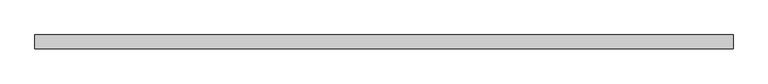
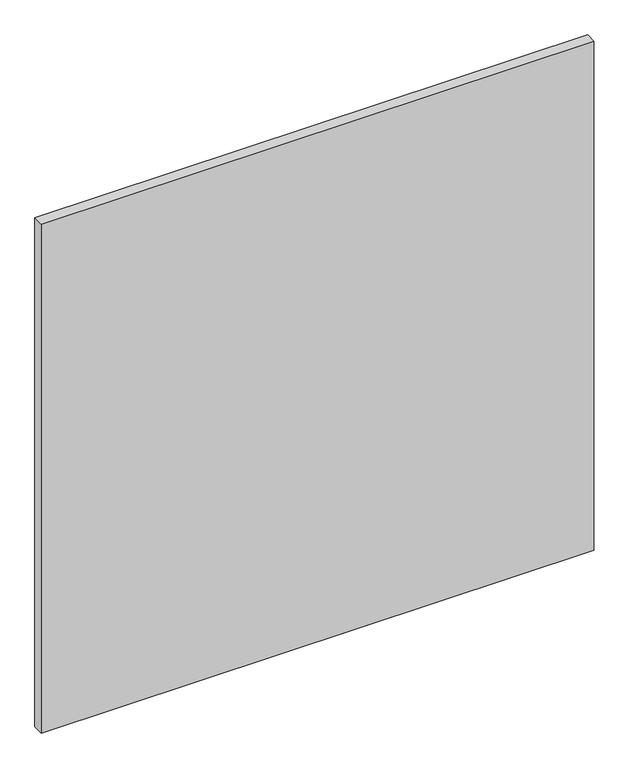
"""IFC4 building model written with IfcOpenShell, lengths in millimetres: proxy geometry, BRASAO : BRASAO."""

from ifc_helpers import new_model, si_unit, frame, origin, place, context, project, spatial, polyline, outline, extrude, source, transform, mapped, element, save


def generic_models_939d28b0(model_context):
    return source(origin(), model_context, "Body", "SweptSolid", [
        extrude(outline(polyline([(2819.2338956, 18393.4769048), (765.1805369, 18393.4769048), (765.1805369, 18433.4769048), (2819.2338956, 18433.4769048), (2819.2338956, 18393.4769048)])), frame((0.0, 0.0, 7170.0), z_axis=(0.0, 0.0, 1.0), x_axis=(1.0, 0.0, 0.0)), (0.0, 0.0, 1.0), 2000.0),
    ])


if __name__ == "__main__":
    model = new_model("IFC4")
    model_context = context("Model", 3, world=origin())
    ifc_project = project(units=[si_unit("LENGTHUNIT", "METRE", prefix="MILLI")], contexts=[model_context])
    site = spatial("IfcSite", under=ifc_project)
    building = spatial("IfcBuilding", under=site)
    placement = place(None, origin())
    generic_models_shape = generic_models_939d28b0(model_context)
    element("IfcBuildingElementProxy", 1, Name="BRASAO : BRASAO", ObjectType="BRASAO : BRASAO", at=placement, inside=building, context=model_context, shape_type="MappedRepresentation", body=[
        mapped(generic_models_shape, transform((0.0, 0.0, 0.0), x_axis=(1.0, 0.0, 0.0), y_axis=(0.0, 1.0, 0.0), z_axis=(0.0, 0.0, 1.0))),
    ])
    save(model, "model.ifc")
